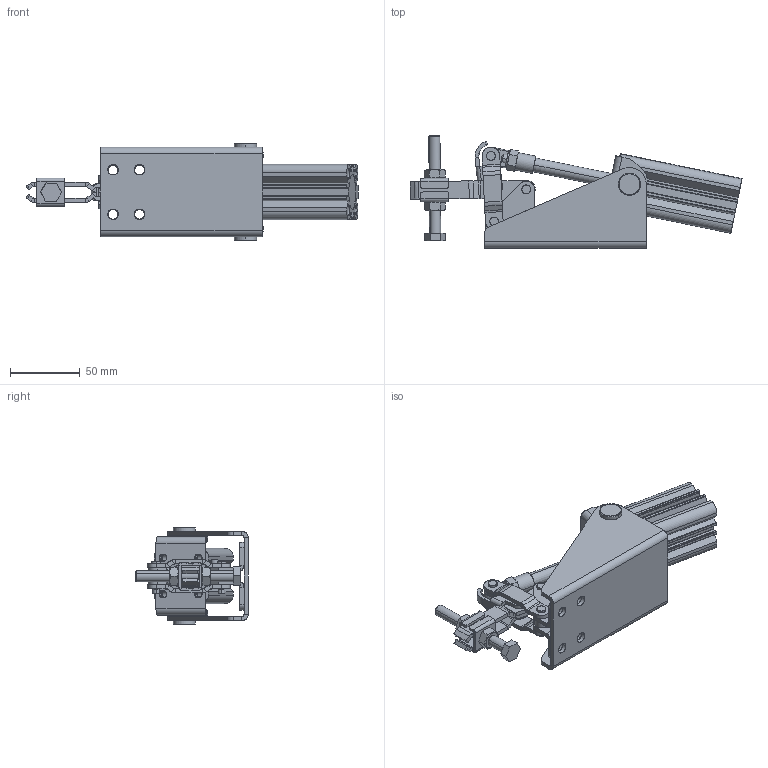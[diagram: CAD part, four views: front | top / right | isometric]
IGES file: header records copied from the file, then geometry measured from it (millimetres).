
Start section: SolidWorks IGES file using analytic representation for surfaces
Global section: file name: C:\Projetos\Grampos\KF-017 P\KF-017 DB P\KF-017 DB P.IGS; native system: SolidWorks 2015; preprocessor: SolidWorks 2015; author: Ricardo; date: 161215.084632; units: millimetre
Bounding box: 238.09 x 80.69 x 70 mm (x, y, z)
Surface area: 113070.8 mm2 (no closed solid volume)
Topology: 0 solids, 0 shells, 773 faces, 10862 edges, 10852 vertices
Faces by surface type: revolution 402, bspline 371
